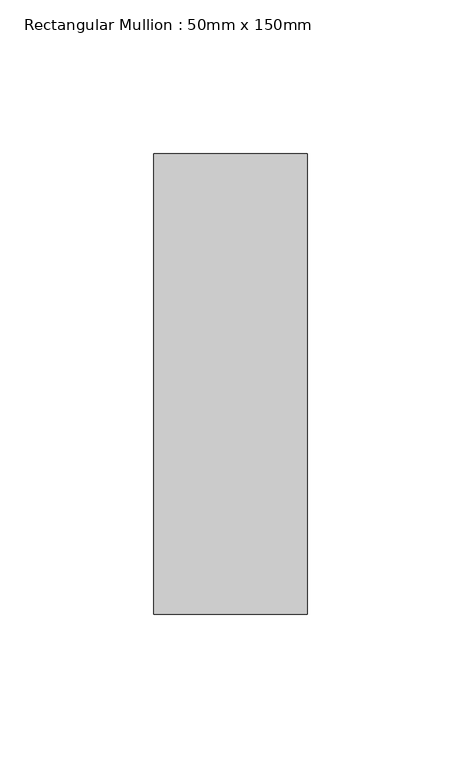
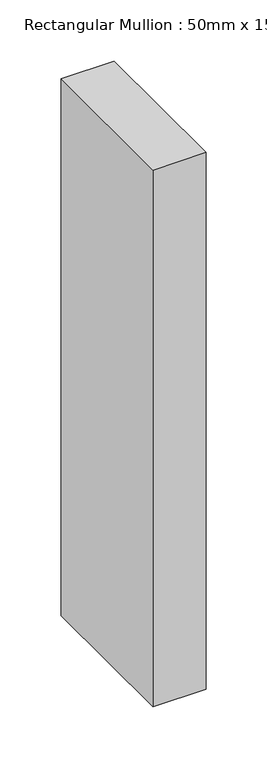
"""IFC4 building model written with IfcOpenShell, lengths in millimetres: member geometry, Rectangular Mullion : 50mm x 150mm."""

from ifc_helpers import new_model, si_unit, frame, origin, place, context, project, spatial, polyline, outline, extrude, source, transform, mapped, element, save


def rectangular_mullion_50mm_x_150mm_36cc9eb6(model_context):
    return source(origin(), model_context, "Body", "SweptSolid", [
        extrude(outline(polyline([(25.0, 75.0), (25.0, -75.0), (-25.0, -75.0), (-25.0, 75.0), (25.0, 75.0)])), frame((0.0, 0.0, -535.0), z_axis=(0.0, 0.0, 1.0), x_axis=(1.0, 0.0, 0.0)), (0.0, 0.0, 1.0), 535.0),
    ])


if __name__ == "__main__":
    model = new_model("IFC4")
    model_context = context("Model", 3, world=origin())
    ifc_project = project(units=[si_unit("LENGTHUNIT", "METRE", prefix="MILLI")], contexts=[model_context])
    site = spatial("IfcSite", under=ifc_project)
    building = spatial("IfcBuilding", under=site)
    placement = place(None, origin())
    rectangular_mullion_50mm_x_150mm_shape = rectangular_mullion_50mm_x_150mm_36cc9eb6(model_context)
    element("IfcMember", 1, ObjectType="Rectangular Mullion : 50mm x 150mm", at=placement, inside=building, context=model_context, shape_type="MappedRepresentation", body=[
        mapped(rectangular_mullion_50mm_x_150mm_shape, transform((0.0, 0.0, 0.0), x_axis=(1.0, 0.0, 0.0), y_axis=(0.0, 1.0, 0.0), z_axis=(0.0, 0.0, 1.0))),
    ])
    save(model, "model.ifc")
